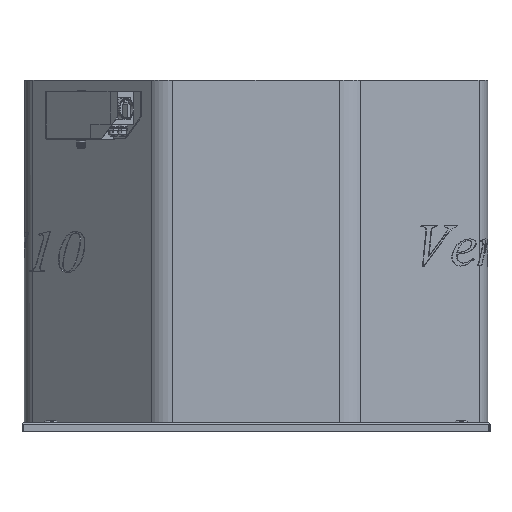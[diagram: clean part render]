
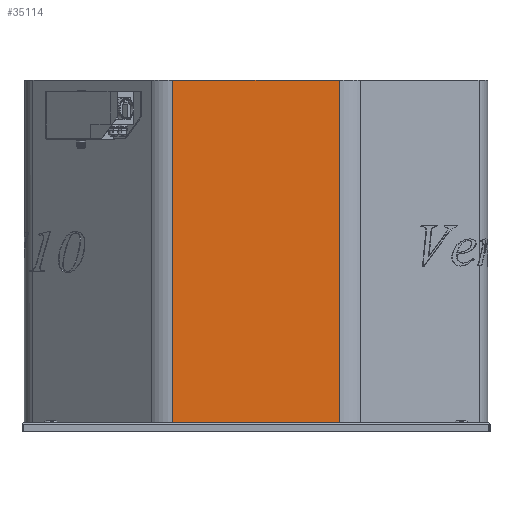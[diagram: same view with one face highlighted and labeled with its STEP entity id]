
A CAD part, front view. The second image highlights one B-rep face of the part: STEP entity #35114.
In plain terms, the highlighted planar face has unit normal (0, -1, 0).
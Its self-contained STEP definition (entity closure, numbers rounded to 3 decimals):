
#3166=PLANE('',#37468);
#4832=FACE_OUTER_BOUND('',#6752,.T.);
#6752=EDGE_LOOP('',(#28586,#28587,#28588,#28589));
#9783=LINE('',#58861,#12979);
#9784=LINE('',#58865,#12980);
#9785=LINE('',#58867,#12981);
#9786=LINE('',#58868,#12982);
#12979=VECTOR('',#43969,10.);
#12980=VECTOR('',#43974,10.);
#12981=VECTOR('',#43975,10.);
#12982=VECTOR('',#43976,10.);
#16348=VERTEX_POINT('',#58858);
#16349=VERTEX_POINT('',#58860);
#16350=VERTEX_POINT('',#58864);
#16351=VERTEX_POINT('',#58866);
#20885=EDGE_CURVE('',#16349,#16348,#9783,.T.);
#20887=EDGE_CURVE('',#16350,#16348,#9784,.T.);
#20888=EDGE_CURVE('',#16351,#16350,#9785,.T.);
#20889=EDGE_CURVE('',#16349,#16351,#9786,.T.);
#28586=ORIENTED_EDGE('',*,*,#20887,.F.);
#28587=ORIENTED_EDGE('',*,*,#20888,.F.);
#28588=ORIENTED_EDGE('',*,*,#20889,.F.);
#28589=ORIENTED_EDGE('',*,*,#20885,.T.);
#35114=ADVANCED_FACE('',(#4832),#3166,.T.);
#37468=AXIS2_PLACEMENT_3D('',#58863,#43972,#43973);
#43969=DIRECTION('',(0.,0.,-1.));
#43972=DIRECTION('center_axis',(0.,-1.,0.));
#43973=DIRECTION('ref_axis',(-1.,0.,0.));
#43974=DIRECTION('',(-1.,0.,0.));
#43975=DIRECTION('',(0.,0.,-1.));
#43976=DIRECTION('',(1.,0.,0.));
#58858=CARTESIAN_POINT('',(-231.907,-643.467,3.));
#58860=CARTESIAN_POINT('',(-231.907,-643.467,955.5));
#58861=CARTESIAN_POINT('',(-231.907,-643.467,955.5));
#58863=CARTESIAN_POINT('Origin',(231.907,-643.467,955.5));
#58864=CARTESIAN_POINT('',(231.907,-643.467,3.));
#58865=CARTESIAN_POINT('',(115.953,-643.467,3.));
#58866=CARTESIAN_POINT('',(231.907,-643.467,955.5));
#58867=CARTESIAN_POINT('',(231.907,-643.467,955.5));
#58868=CARTESIAN_POINT('',(-231.907,-643.467,955.5));
